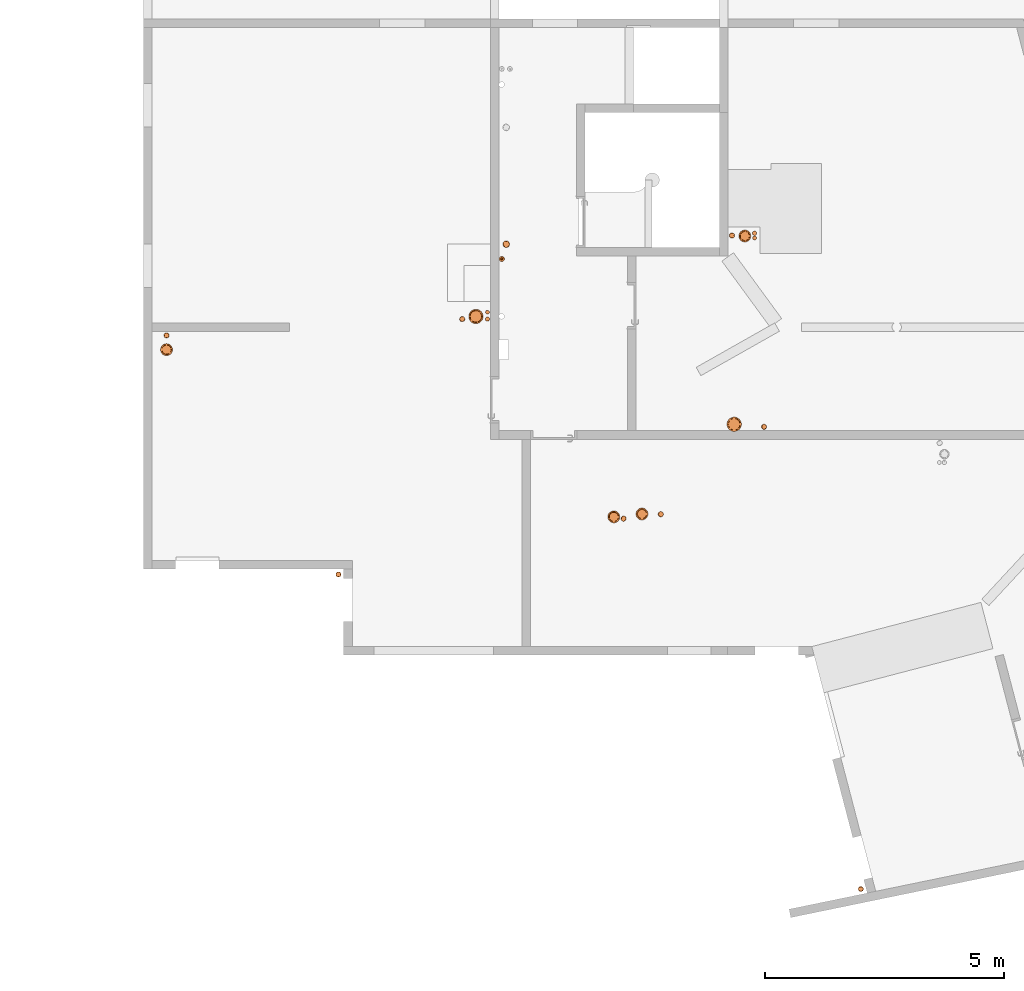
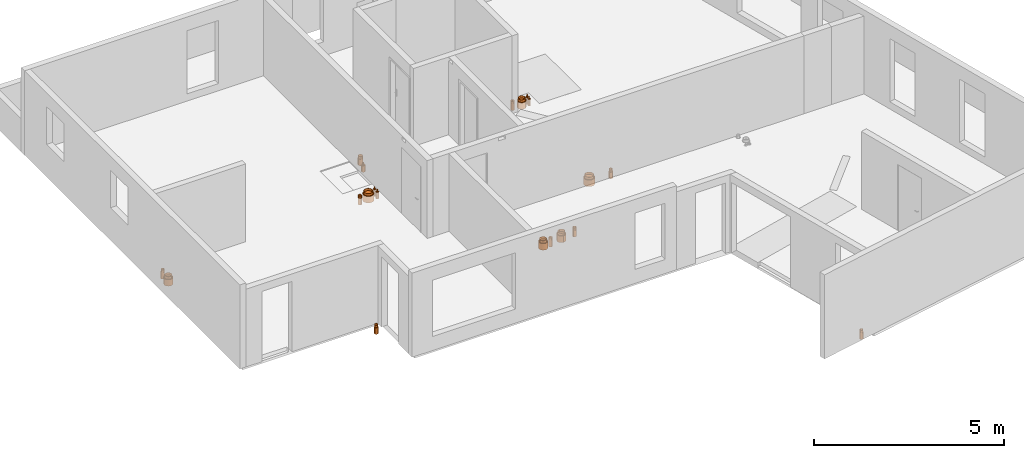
# One storey, part 26 of 28: 22 proxies.
"""IFC2X3 building model written with IfcOpenShell, lengths in centimetres."""

import ifcopenshell
import ifcopenshell.guid

model = None  # the IFC model being written
_history = None  # IfcOwnerHistory: only IFC2X3 demands one
_inside = {}  # id of a spatial element -> (the spatial element, [elements in it])
_under = {}  # id of a project, library or spatial element -> (it, [spatial elements below it])
_declared = {}  # id of a project -> (the project, [libraries it declares])
_typed = {}  # id of a type object -> (the type object, [elements of that type])
_made_of = {}  # id of a material, layer set ... -> (it, [elements and type objects made of it])


def new_model(schema):
    """Start an empty IFC model of exactly this schema.

    Asked for "IFC4X3", IfcOpenShell would pick the latest addendum, in which some entities
    have other attributes; the version numbers below select the first issue.
    IFC2X3 requires an IfcOwnerHistory on every rooted entity: one is made here for all.
    """
    global model, _history
    if schema == "IFC4X3":
        model = ifcopenshell.file(schema_version=(4, 3, 0, 0))
    else:
        model = ifcopenshell.file(schema=schema)
    _inside.clear()
    _under.clear()
    _declared.clear()
    _typed.clear()
    _made_of.clear()
    _history = None
    if model.schema == "IFC2X3":
        org = make("IfcOrganization", Name="unknown")
        user = make(
            "IfcPersonAndOrganization",
            ThePerson=make("IfcPerson", FamilyName="unknown"),
            TheOrganization=org,
        )
        app = make(
            "IfcApplication",
            ApplicationDeveloper=org,
            Version="unknown",
            ApplicationFullName="unknown",
            ApplicationIdentifier="unknown",
        )
        _history = make(
            "IfcOwnerHistory",
            OwningUser=user,
            OwningApplication=app,
            ChangeAction="ADDED",
            CreationDate=0,
        )
    return model


def make(cls, **values):
    """One entity of the class cls with the attributes given. An attribute that is None is left unset."""
    return model.create_entity(
        cls, **{name: value for name, value in values.items() if value is not None}
    )


def entity(cls, *values):
    """Any entity or typed value of the class cls, its attributes in the order of the schema. None: left unset."""
    e = model.create_entity(cls)
    for i, value in enumerate(values):
        if value is not None:
            e[i] = value
    return e


def rooted(cls, **values):
    """An entity with a GlobalId (a new one), such as an element, a storey or a relation."""
    return make(cls, GlobalId=ifcopenshell.guid.new(), OwnerHistory=_history, **values)


def si_unit(unit_type, name, prefix=None):
    """IfcSIUnit, for example si_unit("LENGTHUNIT", "METRE", prefix="MILLI")."""
    return make("IfcSIUnit", UnitType=unit_type, Prefix=prefix, Name=name)


def converted_unit(unit_type, name, factor, base, dimensions=None, offset=None):
    """IfcConversionBasedUnit, such as the inch: factor (a typed value) times the base unit."""
    return make(
        "IfcConversionBasedUnit"
        if offset is None
        else "IfcConversionBasedUnitWithOffset",
        ConversionOffset=offset,
        Dimensions=None
        if dimensions is None
        else entity("IfcDimensionalExponents", *dimensions),
        UnitType=unit_type,
        Name=name,
        ConversionFactor=make(
            "IfcMeasureWithUnit", ValueComponent=factor, UnitComponent=base
        ),
    )


def derived_unit(unit_type, elements):
    """IfcDerivedUnit: a product of units, each with its exponent."""
    return make(
        "IfcDerivedUnit",
        Elements=[
            make("IfcDerivedUnitElement", Unit=unit, Exponent=power)
            for unit, power in elements
        ],
        UnitType=unit_type,
    )


def assignment(units):
    """IfcUnitAssignment: the units of a project."""
    return None if units is None else make("IfcUnitAssignment", Units=units)


def point(xyz):
    """IfcCartesianPoint."""
    return None if xyz is None else make("IfcCartesianPoint", Coordinates=xyz)


def direction(xyz):
    """IfcDirection."""
    return None if xyz is None else make("IfcDirection", DirectionRatios=xyz)


def frame(location, z_axis=None, x_axis=None):
    """IfcAxis2Placement3D, a coordinate frame: its origin and axes. An axis left out is left unset."""
    return make(
        "IfcAxis2Placement3D",
        Location=point(location),
        Axis=direction(z_axis),
        RefDirection=direction(x_axis),
    )


def frame_2d(location, x_axis=None):
    """IfcAxis2Placement2D, a coordinate frame in the plane: its origin and x axis."""
    return make(
        "IfcAxis2Placement2D", Location=point(location), RefDirection=direction(x_axis)
    )


def origin():
    """The frame at (0, 0, 0) with its axes left unset."""
    return frame((0.0, 0.0, 0.0))


def place(relative_to, where):
    """IfcLocalPlacement: puts the frame where relative to a parent placement (None: the world)."""
    return make(
        "IfcLocalPlacement", PlacementRelTo=relative_to, RelativePlacement=where
    )


def context(
    kind, dimensions, precision=None, world=None, true_north=None, identifier=None
):
    """IfcGeometricRepresentationContext, for example the 3D "Model" context."""
    return make(
        "IfcGeometricRepresentationContext",
        ContextIdentifier=identifier,
        ContextType=kind,
        CoordinateSpaceDimension=dimensions,
        Precision=precision,
        WorldCoordinateSystem=world,
        TrueNorth=true_north,
    )


def subcontext(parent, identifier, kind, view, scale=None):
    """IfcGeometricRepresentationSubContext, for example "Body" below "Model"."""
    return make(
        "IfcGeometricRepresentationSubContext",
        ContextIdentifier=identifier,
        ContextType=kind,
        ParentContext=parent,
        TargetScale=scale,
        TargetView=view,
    )


def project(units=None, contexts=None):
    """IfcProject with its units and contexts."""
    return rooted(
        "IfcProject",
        Name="project",
        RepresentationContexts=contexts,
        UnitsInContext=assignment(units),
    )


def spatial(cls, under=None, at=None, **own):
    """A site, building, storey or space (cls), placed at a placement, below another one or the project."""
    s = rooted(cls, ObjectPlacement=at, **own)
    if under is not None:
        _under.setdefault(under.id(), (under, []))[1].append(s)
    return s


def profile(cls, at=None, kind="AREA", **sizes):
    """A parametric profile (cls). Its sizes go by their IFC names, for example OverallWidth=200.0."""
    return make(cls, ProfileType=kind, Position=at, **sizes)


def circle(**sizes):
    """IfcCircleProfileDef."""
    return profile("IfcCircleProfileDef", **sizes)


def hollow_circle(**sizes):
    """IfcCircleHollowProfileDef."""
    return profile("IfcCircleHollowProfileDef", **sizes)


def extrude(swept, where, along, depth):
    """IfcExtrudedAreaSolid: the profile swept, set in the frame where, extruded along a direction by depth."""
    return make(
        "IfcExtrudedAreaSolid",
        SweptArea=swept,
        Position=where,
        ExtrudedDirection=direction(along),
        Depth=depth,
    )


def shape(context_of_items, identifier, shape_type, items):
    """IfcShapeRepresentation: the items that make up one representation, for example the "Body"."""
    return make(
        "IfcShapeRepresentation",
        ContextOfItems=context_of_items,
        RepresentationIdentifier=identifier,
        RepresentationType=shape_type,
        Items=items,
    )


def source(mapping_origin, context_of_items, identifier, shape_type, items):
    """IfcRepresentationMap: a shape defined once, which mapped items show again and again."""
    return make(
        "IfcRepresentationMap",
        MappingOrigin=mapping_origin,
        MappedRepresentation=shape(context_of_items, identifier, shape_type, items),
    )


def transform(
    local_origin,
    x_axis=None,
    y_axis=None,
    z_axis=None,
    scale=None,
    scale2=None,
    scale3=None,
    uniform=True,
):
    """IfcCartesianTransformationOperator3D, or its non-uniform kind. x_axis, y_axis, z_axis: its Axis1, 2, 3."""
    if uniform:
        return make(
            "IfcCartesianTransformationOperator3D",
            Axis1=direction(x_axis),
            Axis2=direction(y_axis),
            LocalOrigin=point(local_origin),
            Scale=scale,
            Axis3=direction(z_axis),
        )
    return make(
        "IfcCartesianTransformationOperator3DnonUniform",
        Axis1=direction(x_axis),
        Axis2=direction(y_axis),
        LocalOrigin=point(local_origin),
        Scale=scale,
        Axis3=direction(z_axis),
        Scale2=scale2,
        Scale3=scale3,
    )


def mapped(mapping_source, mapping_target):
    """IfcMappedItem: shows the shape of a source again, moved by a transform."""
    return make(
        "IfcMappedItem", MappingSource=mapping_source, MappingTarget=mapping_target
    )


def material(Name=None, Category=None):
    """IfcMaterial."""
    return make("IfcMaterial", Name=Name, Category=Category)


def made_of(thing, what):
    """Note that an element or type object is made of a material, layer set ...; save() writes the relation."""
    if what is not None:
        _made_of.setdefault(what.id(), (what, []))[1].append(thing)
    return thing


def type_object(cls, material=None, **own):
    """A type object (cls), such as IfcWallType, which elements share."""
    return made_of(rooted(cls, **own), material)


def type_shapes(of_type, sources):
    """Give a type object the sources (RepresentationMaps) that its elements show as mapped items."""
    of_type.RepresentationMaps = sources


def element(
    cls,
    number,
    at=None,
    inside=None,
    cuts=None,
    type_object=None,
    material=None,
    context=None,
    identifier="Body",
    shape_type=None,
    held_by="IfcProductDefinitionShape",
    body=None,
    shapes=None,
    **own,
):
    """One element of the class cls, such as IfcWall. Its Tag is "e" and its number.

    at: its placement. inside: the storey or other place that contains it. cuts: it is an
    opening in that element (IfcRelVoidsElement). A single representation is given by context,
    identifier, shape_type and body (its items); several are given by shapes. held_by: the class
    of the entity that holds the representations. save() writes the other relations.
    """
    e = rooted(cls, Tag="e%d" % number, ObjectPlacement=at, **own)
    if body is not None:
        shapes = [shape(context, identifier, shape_type, body)]
    if shapes is not None:
        e.Representation = make(held_by, Representations=shapes)
    if inside is not None:
        _inside.setdefault(inside.id(), (inside, []))[1].append(e)
    if cuts is not None:
        rooted(
            "IfcRelVoidsElement", RelatingBuildingElement=cuts, RelatedOpeningElement=e
        )
    if type_object is not None:
        _typed.setdefault(type_object.id(), (type_object, []))[1].append(e)
    return made_of(e, material)


def aggregate(whole, parts):
    """IfcRelAggregates: a whole, such as a stair, and the parts it consists of."""
    return rooted("IfcRelAggregates", RelatingObject=whole, RelatedObjects=parts)


def save(model, path):
    """Write the relations noted so far, then the file.

    IfcRelAggregates (storeys below a building ...), IfcRelContainedInSpatialStructure (elements
    in a storey), IfcRelDefinesByType, IfcRelAssociatesMaterial and IfcRelDeclares: one each for
    every whole, place, type object, material and project.
    """
    for whole, parts in _under.values():
        aggregate(whole, parts)
    for where, things in _inside.values():
        rooted(
            "IfcRelContainedInSpatialStructure",
            RelatedElements=things,
            RelatingStructure=where,
        )
    for kind, things in _typed.values():
        rooted("IfcRelDefinesByType", RelatedObjects=things, RelatingType=kind)
    for what, things in _made_of.values():
        rooted("IfcRelAssociatesMaterial", RelatedObjects=things, RelatingMaterial=what)
    for by, libraries in _declared.values():
        rooted("IfcRelDeclares", RelatingContext=by, RelatedDefinitions=libraries)
    model.write(path)


model = new_model("IFC2X3")

# Units and contexts
model_context = context("Model", 3, precision=0.001, world=origin(), true_north=direction((6.12303176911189e-17, 1.0)))
body_context = subcontext(model_context, "Body", "Model", "MODEL_VIEW")
ifc_project = project(units=[si_unit("LENGTHUNIT", "METRE", prefix="CENTI"), si_unit("AREAUNIT", "SQUARE_METRE"), si_unit("VOLUMEUNIT", "CUBIC_METRE"), converted_unit("PLANEANGLEUNIT", "DEGREE", entity("IfcRatioMeasure", 0.0174532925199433), si_unit("PLANEANGLEUNIT", "RADIAN"), dimensions=[0, 0, 0, 0, 0, 0, 0]), si_unit("MASSUNIT", "GRAM", prefix="KILO"), derived_unit("MASSDENSITYUNIT", [(si_unit("MASSUNIT", "GRAM", prefix="KILO"), 1), (si_unit("LENGTHUNIT", "METRE"), -3)]), si_unit("TIMEUNIT", "SECOND"), si_unit("FREQUENCYUNIT", "HERTZ"), si_unit("THERMODYNAMICTEMPERATUREUNIT", "DEGREE_CELSIUS"), derived_unit("THERMALTRANSMITTANCEUNIT", [(si_unit("MASSUNIT", "GRAM", prefix="KILO"), 1), (si_unit("THERMODYNAMICTEMPERATUREUNIT", "KELVIN"), -1), (si_unit("TIMEUNIT", "SECOND"), -3)]), derived_unit("VOLUMETRICFLOWRATEUNIT", [(si_unit("LENGTHUNIT", "METRE"), 3), (si_unit("TIMEUNIT", "SECOND"), -1)]), si_unit("ELECTRICCURRENTUNIT", "AMPERE"), si_unit("ELECTRICVOLTAGEUNIT", "VOLT"), si_unit("POWERUNIT", "WATT"), si_unit("FORCEUNIT", "NEWTON"), si_unit("ILLUMINANCEUNIT", "LUX"), si_unit("LUMINOUSFLUXUNIT", "LUMEN"), si_unit("LUMINOUSINTENSITYUNIT", "CANDELA"), derived_unit("USERDEFINED", [(si_unit("MASSUNIT", "GRAM", prefix="KILO"), -1), (si_unit("LENGTHUNIT", "METRE"), -2), (si_unit("TIMEUNIT", "SECOND"), 3), (si_unit("LUMINOUSFLUXUNIT", "LUMEN"), 1)]), derived_unit("LINEARVELOCITYUNIT", [(si_unit("LENGTHUNIT", "METRE"), 1), (si_unit("TIMEUNIT", "SECOND"), -1)]), si_unit("PRESSUREUNIT", "PASCAL"), derived_unit("USERDEFINED", [(si_unit("LENGTHUNIT", "METRE"), -2), (si_unit("MASSUNIT", "GRAM", prefix="KILO"), 1), (si_unit("TIMEUNIT", "SECOND"), -2)])], contexts=[model_context])

# Site, building, storey
site_placement = place(None, origin())
site = spatial("IfcSite", under=ifc_project, at=site_placement, Name="Default", CompositionType="ELEMENT")
building_placement = place(site_placement, origin())
building = spatial("IfcBuilding", under=site, at=building_placement, Name="CAGE 03", CompositionType="ELEMENT")
storey_placement = place(building_placement, frame((0.0, 0.0, 1420.0)))
storey = spatial("IfcBuildingStorey", under=building, at=storey_placement, Name="R+5", CompositionType="ELEMENT", Elevation=1420.0)

# Proxies
ifc_material_1 = material(Name="Conduit VMC")
building_element_proxy_type_1 = type_object("IfcBuildingElementProxyType", Name="VMC 200", PredefinedType="NOTDEFINED", material=ifc_material_1)
shared_shape_1 = source(origin(), body_context, "Body", "SweptSolid", [
    extrude(circle(Radius=12.5, at=frame_2d((0.0, -2.01943071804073e-14), x_axis=(1.0, 0.0))), frame((0.0, 0.0, -21.0)), (0.0, 0.0, 1.0), 21.0),
    extrude(hollow_circle(Radius=10.0, WallThickness=0.5, at=frame_2d((0.0, -1.61554457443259e-14), x_axis=(1.0, 0.0))), frame((0.0, 0.0, -21.0)), (0.0, 0.0, 1.0), 28.5),
])
type_shapes(building_element_proxy_type_1, [shared_shape_1])
for number, where, name in (
    (1, (10327.8864460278, 4092.36946065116, 0.0), "Galette - Résa - PVC4:VMC 200"),
    (2, (10268.9349519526, 4086.28265819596, 0.0), "Galette - Résa - PVC4:VMC 200"),
):
    element("IfcBuildingElementProxy", number, at=place(storey_placement, frame(where)), inside=storey, type_object=building_element_proxy_type_1, material=ifc_material_1, Name=name, ObjectType="VMC 200", context=body_context, shape_type="MappedRepresentation", body=[
        mapped(shared_shape_1, transform((0.0, 0.0, 0.0), scale=1.0)),
    ])
building_element_proxy_type_2 = type_object("IfcBuildingElementProxyType", Name="CFO235 P210", PredefinedType="NOTDEFINED", material=ifc_material_1)
shared_shape_2 = source(origin(), body_context, "Body", "SweptSolid", [
    extrude(circle(Radius=12.5, at=frame_2d((0.0, -2.01943071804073e-14), x_axis=(1.0, 0.0))), frame((0.0, 0.0, -21.0)), (0.0, 0.0, 1.0), 21.0),
    extrude(hollow_circle(Radius=10.0, WallThickness=0.5, at=frame_2d((0.0, -1.61554457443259e-14), x_axis=(1.0, 0.0))), frame((0.0, 0.0, -21.0)), (0.0, 0.0, 1.0), 28.5),
])
type_shapes(building_element_proxy_type_2, [shared_shape_2])
for number, where, name in (
    (3, (10543.3017682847, 4674.40997606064, 0.0), "Galette - Résa - PVC4:CFO235 P210"),
    (4, (10327.9230662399, 4092.36946065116, 0.0), "Galette - Résa - PVC4:CFO235 P210"),
    (5, (10268.9349519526, 4086.28265819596, 0.0), "Galette - Résa - PVC4:CFO235 P210"),
    (6, (9332.31391271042, 4436.40500268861, 0.0), "Galette - Résa - PVC4:CFO235 P210"),
):
    element("IfcBuildingElementProxy", number, at=place(storey_placement, frame(where)), inside=storey, type_object=building_element_proxy_type_2, material=ifc_material_1, Name=name, ObjectType="CFO235 P210", context=body_context, shape_type="MappedRepresentation", body=[
        mapped(shared_shape_2, transform((0.0, 0.0, 0.0), scale=1.0)),
    ])
ifc_material_2 = material(Name="Conduit EP")
building_element_proxy_type_3 = type_object("IfcBuildingElementProxyType", Name="EP 101", PredefinedType="NOTDEFINED", material=ifc_material_2)
shared_shape_3 = source(origin(), body_context, "Body", "SweptSolid", [
    extrude(circle(Radius=5.5, at=frame_2d((0.0, -8.88549515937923e-15), x_axis=(1.0, 0.0))), frame((0.0, 0.0, -21.0)), (0.0, 0.0, 1.0), 21.0),
    extrude(hollow_circle(Radius=5.0, WallThickness=0.25, at=frame_2d((0.0, -8.07772287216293e-15), x_axis=(1.0, 0.0))), frame((0.0, 0.0, -21.0)), (0.0, 0.0, 1.0), 28.5),
])
type_shapes(building_element_proxy_type_3, [shared_shape_3])
for number, where, name in (
    (7, (10786.1450258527, 3306.95481526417, 0.0), "Galette - Résa - PVC4:EP 101"),
    (8, (9692.36582014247, 3965.66066607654, 0.0), "Galette - Résa - PVC4:EP 101"),
):
    element("IfcBuildingElementProxy", number, at=place(storey_placement, frame(where)), inside=storey, type_object=building_element_proxy_type_3, material=ifc_material_2, Name=name, ObjectType="EP 101", context=body_context, shape_type="MappedRepresentation", body=[
        mapped(shared_shape_3, transform((0.0, 0.0, 0.0), scale=1.0)),
    ])
building_element_proxy_type_4 = type_object("IfcBuildingElementProxyType", Name="EP 126", PredefinedType="NOTDEFINED", material=ifc_material_2)
shared_shape_4 = source(origin(), body_context, "Body", "SweptSolid", [
    extrude(circle(Radius=7.0, at=frame_2d((0.0, -1.13088120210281e-14), x_axis=(1.0, 0.0))), frame((0.0, 0.0, -21.0)), (0.0, 0.0, 1.0), 21.0),
    extrude(hollow_circle(Radius=6.25, WallThickness=0.25, at=frame_2d((0.0, -1.00971535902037e-14), x_axis=(1.0, 0.0))), frame((0.0, 0.0, -21.0)), (0.0, 0.0, 1.0), 28.5),
])
type_shapes(building_element_proxy_type_4, [shared_shape_4])
proxy_1_placement = place(storey_placement, frame((10043.5548418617, 4657.41074661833, 0.0)))
element("IfcBuildingElementProxy", 9, at=proxy_1_placement, inside=storey, type_object=building_element_proxy_type_4, material=ifc_material_2, Name="Galette - Résa - PVC4:EP 126", ObjectType="EP 126", context=body_context, shape_type="MappedRepresentation", body=[
    mapped(shared_shape_4, transform((0.0, 0.0, 0.0), scale=1.0)),
])
ifc_material_3 = material(Name="Conduit EU")
building_element_proxy_type_5 = type_object("IfcBuildingElementProxyType", Name="CFO125 P110", PredefinedType="NOTDEFINED", material=ifc_material_3)
shared_shape_5 = source(origin(), body_context, "Body", "SweptSolid", [
    extrude(circle(Radius=5.5, at=frame_2d((0.0, -8.88549515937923e-15), x_axis=(1.0, 0.0))), frame((0.0, 0.0, -21.0)), (0.0, 0.0, 1.0), 21.0),
    extrude(hollow_circle(Radius=5.0, WallThickness=0.25, at=frame_2d((0.0, -8.07772287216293e-15), x_axis=(1.0, 0.0))), frame((0.0, 0.0, -21.0)), (0.0, 0.0, 1.0), 28.5),
])
type_shapes(building_element_proxy_type_5, [shared_shape_5])
for number, where, name in (
    (10, (10516.3610475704, 4675.41484953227, 0.0), "Galette - Résa - PVC4:CFO125 P110"),
    (11, (10583.5881388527, 4274.95220023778, 0.0), "Galette - Résa - PVC4:CFO125 P110"),
    (12, (10289.3612124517, 4082.5325407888, 0.0), "Galette - Résa - PVC4:CFO125 P110"),
    (13, (10367.3017612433, 4091.78416513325, 0.0), "Galette - Résa - PVC4:CFO125 P110"),
    (14, (9332.31391271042, 4466.282688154, 0.0), "Galette - Résa - PVC4:CFO125 P110"),
    (15, (9951.51198540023, 4500.43298935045, 0.0), "Galette - Résa - PVC4:CFO125 P110"),
):
    element("IfcBuildingElementProxy", number, at=place(storey_placement, frame(where)), inside=storey, type_object=building_element_proxy_type_5, material=ifc_material_3, Name=name, ObjectType="CFO125 P110", context=body_context, shape_type="MappedRepresentation", body=[
        mapped(shared_shape_5, transform((0.0, 0.0, 0.0), scale=1.0)),
    ])
ifc_material_4 = material(Name="Circuit EF")
building_element_proxy_type_6 = type_object("IfcBuildingElementProxyType", Name="EF 50", PredefinedType="NOTDEFINED", material=ifc_material_4)
shared_shape_6 = source(origin(), body_context, "Body", "SweptSolid", [
    extrude(circle(Radius=5.5, at=frame_2d((0.0, -8.88549515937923e-15), x_axis=(1.0, 0.0))), frame((0.0, 0.0, -21.0)), (0.0, 0.0, 1.0), 21.0),
    extrude(hollow_circle(Radius=2.5, WallThickness=0.9, at=frame_2d((0.0, -4.03886143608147e-15), x_axis=(1.0, 0.0))), frame((0.0, 0.0, -21.0)), (0.0, 0.0, 1.0), 28.5),
])
type_shapes(building_element_proxy_type_6, [shared_shape_6])
proxy_2_placement = place(storey_placement, frame((10034.3657978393, 4626.41657255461, 0.0)))
element("IfcBuildingElementProxy", 16, at=proxy_2_placement, inside=storey, type_object=building_element_proxy_type_6, material=ifc_material_4, Name="Galette - Résa - PVC4:EF 50", ObjectType="EF 50", context=body_context, shape_type="MappedRepresentation", body=[
    mapped(shared_shape_6, transform((0.0, 0.0, 0.0), scale=1.0)),
])
ifc_material_5 = material(Name="Circuit ECS Retour")
building_element_proxy_type_7 = type_object("IfcBuildingElementProxyType", Name="CFO100 P80", PredefinedType="NOTDEFINED", material=ifc_material_5)
shared_shape_7 = source(origin(), body_context, "Body", "SweptSolid", [
    extrude(circle(Radius=4.0, at=frame_2d((0.0, -6.46217829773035e-15), x_axis=(1.0, 0.0))), frame((0.0, 0.0, -21.0)), (0.0, 0.0, 1.0), 21.0),
    extrude(hollow_circle(Radius=1.0, WallThickness=0.0500000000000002, at=frame_2d((0.0, -1.61554457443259e-15), x_axis=(1.0, 0.0))), frame((0.0, 0.0, -21.0)), (0.0, 0.0, 1.0), 28.5),
])
type_shapes(building_element_proxy_type_7, [shared_shape_7])
for number, where, name in (
    (17, (10563.7225319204, 4670.18910916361, 0.0), "Galette - Résa - PVC4:CFO100 P80"),
    (18, (10004.3066082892, 4514.90367083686, 0.0), "Galette - Résa - PVC4:CFO100 P80"),
):
    element("IfcBuildingElementProxy", number, at=place(storey_placement, frame(where)), inside=storey, type_object=building_element_proxy_type_7, material=ifc_material_5, Name=name, ObjectType="CFO100 P80", context=body_context, shape_type="MappedRepresentation", body=[
        mapped(shared_shape_7, transform((0.0, 0.0, 0.0), scale=1.0)),
    ])
ifc_material_6 = material(Name="Circuit ECS Aller")
building_element_proxy_type_8 = type_object("IfcBuildingElementProxyType", Name="CFO100 P90", PredefinedType="NOTDEFINED", material=ifc_material_6)
shared_shape_8 = source(origin(), body_context, "Body", "SweptSolid", [
    extrude(circle(Radius=4.5, at=frame_2d((0.0, -7.26995058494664e-15), x_axis=(1.0, 0.0))), frame((0.0, 0.0, -21.0)), (0.0, 0.0, 1.0), 21.0),
    extrude(hollow_circle(Radius=1.6, WallThickness=0.05, at=frame_2d((0.0, -2.58487131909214e-15), x_axis=(1.0, 0.0))), frame((0.0, 0.0, -21.0)), (0.0, 0.0, 1.0), 28.5),
])
type_shapes(building_element_proxy_type_8, [shared_shape_8])
for number, where, name in (
    (19, (10563.7225319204, 4680.14295650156, 0.0), "Galette - Résa - PVC4:CFO100 P90"),
    (20, (10004.3066082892, 4500.43298935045, 0.0), "Galette - Résa - PVC4:CFO100 P90"),
):
    element("IfcBuildingElementProxy", number, at=place(storey_placement, frame(where)), inside=storey, type_object=building_element_proxy_type_8, material=ifc_material_6, Name=name, ObjectType="CFO100 P90", context=body_context, shape_type="MappedRepresentation", body=[
        mapped(shared_shape_8, transform((0.0, 0.0, 0.0), scale=1.0)),
    ])
building_element_proxy_type_9 = type_object("IfcBuildingElementProxyType", Name="CFO285 P260", PredefinedType="NOTDEFINED", material=ifc_material_1)
shared_shape_9 = source(origin(), body_context, "Body", "SweptSolid", [
    extrude(circle(Radius=15.0, at=frame_2d((0.0, -2.42331686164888e-14), x_axis=(1.0, 0.0))), frame((0.0, 0.0, -21.0)), (0.0, 0.0, 1.0), 21.0),
    extrude(hollow_circle(Radius=12.5, WallThickness=0.499999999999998, at=frame_2d((0.0, -2.01943071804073e-14), x_axis=(1.0, 0.0))), frame((0.0, 0.0, -21.0)), (0.0, 0.0, 1.0), 28.5),
])
type_shapes(building_element_proxy_type_9, [shared_shape_9])
for number, where, name in (
    (21, (10521.0266728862, 4280.19633996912, 0.0), "Galette - Résa - PVC4:CFO285 P260"),
    (22, (9980.14441648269, 4505.98818311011, 0.0), "Galette - Résa - PVC4:CFO285 P260"),
):
    element("IfcBuildingElementProxy", number, at=place(storey_placement, frame(where)), inside=storey, type_object=building_element_proxy_type_9, material=ifc_material_1, Name=name, ObjectType="CFO285 P260", context=body_context, shape_type="MappedRepresentation", body=[
        mapped(shared_shape_9, transform((0.0, 0.0, 0.0), scale=1.0)),
    ])

save(model, "model.ifc")
